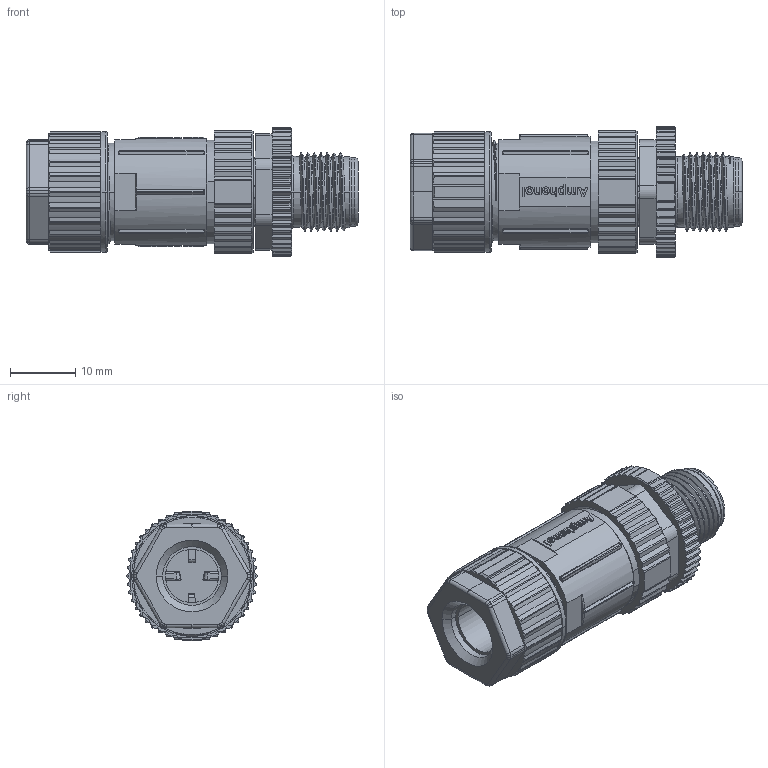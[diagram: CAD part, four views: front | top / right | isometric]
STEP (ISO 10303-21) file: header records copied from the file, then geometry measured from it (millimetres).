
FILE_DESCRIPTION((''),'2;1');
FILE_NAME('MSAP-03BMMB-SL7001_SW0001','2015-08-31T',('KS5451'),(''),'PRO/ENGINEER BY PARAMETRIC TECHNOLOGY CORPORATION, 2013050','PRO/ENGINEER BY PARAMETRIC TECHNOLOGY CORPORATION, 2013050','');
FILE_SCHEMA(('CONFIG_CONTROL_DESIGN'));
Length unit declared in the file: millimetre
Products named in the file (1): MSAP-03BMMB-SL7001_SW0001
Bounding box: 51 x 20.09 x 19.93 mm (x, y, z)
Volume: 7651.4 mm3; surface area: 9861.5 mm2
Topology: 1 solids, 5 shells, 1816 faces, 5027 edges, 3252 vertices
Faces by surface type: plane 781, cylinder 516, bspline 155, cone 153, extrusion 128, torus 61, sphere 22
Entity records: 140698 total; most frequent: CARTESIAN_POINT 96719, ORIENTED_EDGE 10042, DIRECTION 7795, EDGE_CURVE 5021, VERTEX_POINT 3252, VECTOR 2675, AXIS2_PLACEMENT_3D 2560, LINE 2547
